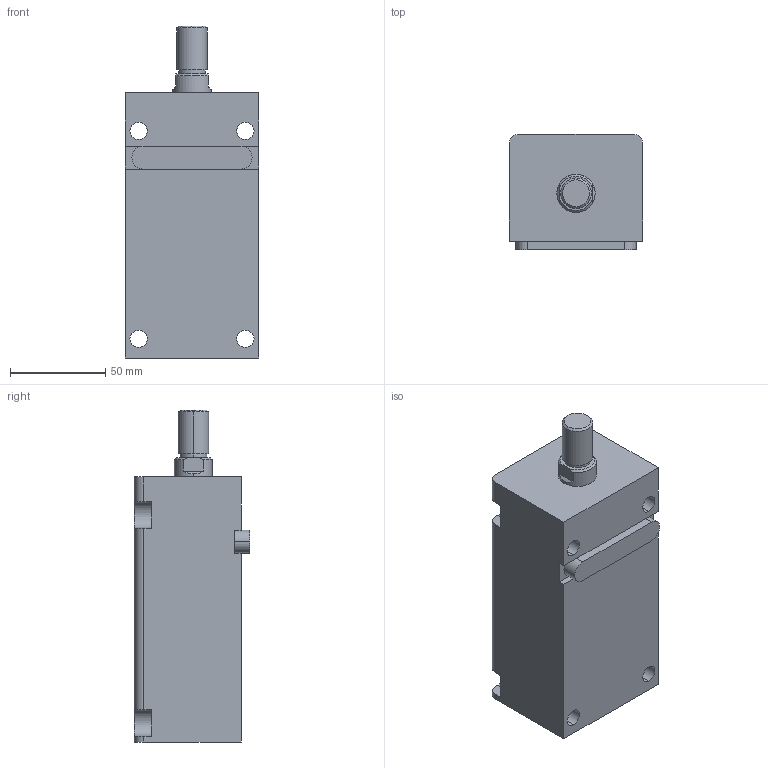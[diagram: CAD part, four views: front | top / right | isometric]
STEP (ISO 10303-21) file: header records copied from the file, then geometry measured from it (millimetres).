
FILE_DESCRIPTION (( 'STEP AP203' ), '1' );
FILE_NAME ('HTB-LA32-85W.STEP', '2019-10-09T06:31:46', ( '微软用户' ), ( '微软中国' ), 'SwSTEP 2.0', 'SolidWorks 2012', '' );
FILE_SCHEMA (( 'CONFIG_CONTROL_DESIGN' ));
Length unit declared in the file: millimetre
Products named in the file (4): HTB-LA32-瑩; HTB-LA32-85W; HTB-LA32-85掛极; HTB-LA32-85W活塞杆
Assembly tree (3 placements, depth 2):
  HTB-LA32-85W
    HTB-LA32-85掛极
    HTB-LA32-85W活塞杆
    HTB-LA32-瑩
Bounding box: 70 x 60.5 x 174 mm (x, y, z)
Volume: 492492.2 mm3; surface area: 76754.9 mm2
Topology: 3 solids, 3 shells, 92 faces, 223 edges, 146 vertices
Faces by surface type: plane 41, cylinder 37, cone 8, torus 6
Entity records: 3159 total; most frequent: DIRECTION 509, CARTESIAN_POINT 495, ORIENTED_EDGE 446, EDGE_CURVE 223, AXIS2_PLACEMENT_3D 196, VERTEX_POINT 146, LINE 117, VECTOR 117
